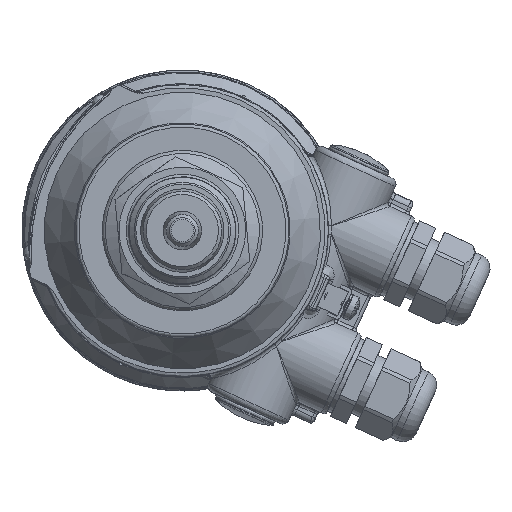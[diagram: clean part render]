
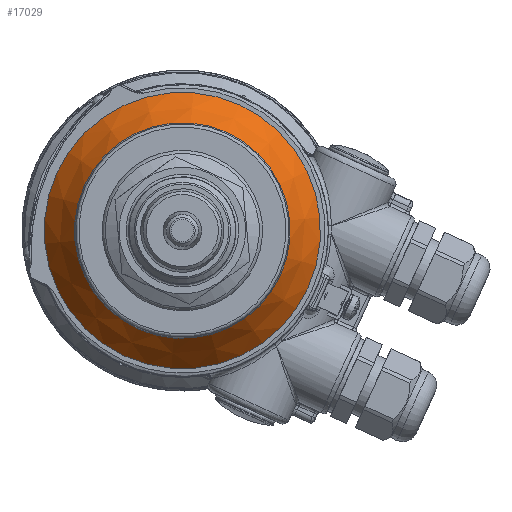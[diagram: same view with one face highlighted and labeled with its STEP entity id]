
A CAD part, front view. The second image highlights one B-rep face of the part: STEP entity #17029.
In plain terms, the highlighted conical face has half-angle 35 degrees and reference radius 38.151 mm.
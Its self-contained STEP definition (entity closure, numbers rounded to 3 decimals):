
#636=CONICAL_SURFACE('',#18397,38.151,35.);
#1241=FACE_BOUND('',#3970,.T.);
#2791=FACE_OUTER_BOUND('',#3969,.T.);
#3969=EDGE_LOOP('',(#12906));
#3970=EDGE_LOOP('',(#12907));
#6618=CIRCLE('',#18394,43.053);
#6619=CIRCLE('',#18396,33.612);
#7863=VERTEX_POINT('',#34421);
#7864=VERTEX_POINT('',#34424);
#9713=EDGE_CURVE('',#7863,#7863,#6618,.T.);
#9714=EDGE_CURVE('',#7864,#7864,#6619,.T.);
#12906=ORIENTED_EDGE('',*,*,#9713,.F.);
#12907=ORIENTED_EDGE('',*,*,#9714,.F.);
#17029=ADVANCED_FACE('',(#2791,#1241),#636,.T.);
#18394=AXIS2_PLACEMENT_3D('',#34422,#21087,#21088);
#18396=AXIS2_PLACEMENT_3D('',#34425,#21091,#21092);
#18397=AXIS2_PLACEMENT_3D('',#34426,#21093,#21094);
#21087=DIRECTION('center_axis',(0.,1.,0.));
#21088=DIRECTION('ref_axis',(1.,0.,0.));
#21091=DIRECTION('center_axis',(0.,-1.,0.));
#21092=DIRECTION('ref_axis',(1.,0.,0.));
#21093=DIRECTION('center_axis',(0.,1.,0.));
#21094=DIRECTION('ref_axis',(-1.,0.,0.));
#34421=CARTESIAN_POINT('',(-43.053,18.5,0.));
#34422=CARTESIAN_POINT('Origin',(0.,18.5,0.));
#34424=CARTESIAN_POINT('',(-33.612,5.017,0.));
#34425=CARTESIAN_POINT('Origin',(0.,5.017,0.));
#34426=CARTESIAN_POINT('Origin',(0.,11.5,0.));
